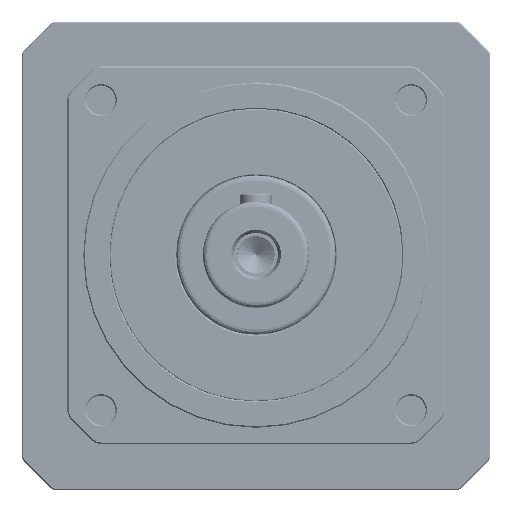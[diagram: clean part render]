
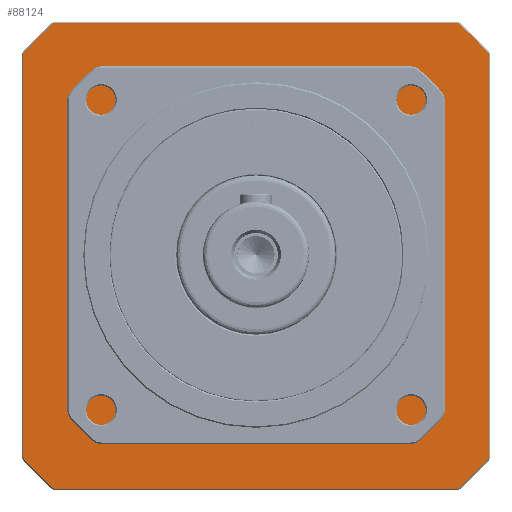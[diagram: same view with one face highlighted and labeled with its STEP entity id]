
A CAD part, top view. The second image highlights one B-rep face of the part: STEP entity #88124.
In plain terms, the highlighted planar face has unit normal (0, 0, 1) as drawn and (0, 0, -1) by its records, which use the part's own axes.
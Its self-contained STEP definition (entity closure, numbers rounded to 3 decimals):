
#786 = VERTEX_POINT ( 'NONE', #103845 ) ;
#2954 = ORIENTED_EDGE ( 'NONE', *, *, #110893, .T. ) ;
#3197 = DIRECTION ( 'NONE',  ( 0., 0., 1. ) ) ;
#3811 = EDGE_CURVE ( 'NONE', #97513, #93216, #55928, .T. ) ;
#4879 = CARTESIAN_POINT ( 'NONE',  ( 0., -57.5, 0. ) ) ;
#6208 = FACE_OUTER_BOUND ( 'NONE', #29484, .T. ) ;
#8763 = CARTESIAN_POINT ( 'NONE',  ( 30.311, -57.5, 0. ) ) ;
#10284 = VECTOR ( 'NONE', #104699, 1000. ) ;
#10350 = VERTEX_POINT ( 'NONE', #99037 ) ;
#11563 = LINE ( 'NONE', #51468, #34195 ) ;
#11644 = VERTEX_POINT ( 'NONE', #81815 ) ;
#12252 = DIRECTION ( 'NONE',  ( 1., 0., 0. ) ) ;
#13202 = EDGE_CURVE ( 'NONE', #29967, #97513, #29375, .T. ) ;
#13450 = VECTOR ( 'NONE', #106782, 1000. ) ;
#13932 = ORIENTED_EDGE ( 'NONE', *, *, #69969, .T. ) ;
#15100 = EDGE_LOOP ( 'NONE', ( #19698, #93793, #43599, #26487, #58254, #43535, #91336, #2954 ) ) ;
#15912 = VERTEX_POINT ( 'NONE', #45054 ) ;
#16662 = CARTESIAN_POINT ( 'NONE',  ( 0., 0., 0. ) ) ;
#17107 = VERTEX_POINT ( 'NONE', #17220 ) ;
#17131 = CARTESIAN_POINT ( 'NONE',  ( 0., 0., 0. ) ) ;
#17208 = CARTESIAN_POINT ( 'NONE',  ( -87.5, 76.156, 0. ) ) ;
#17220 = CARTESIAN_POINT ( 'NONE',  ( 30.311, 57.5, 0. ) ) ;
#18403 = CARTESIAN_POINT ( 'NONE',  ( 57.5, 30.311, 0. ) ) ;
#18451 = DIRECTION ( 'NONE',  ( 1., 0., 0. ) ) ;
#18771 = VERTEX_POINT ( 'NONE', #25591 ) ;
#19698 = ORIENTED_EDGE ( 'NONE', *, *, #24607, .T. ) ;
#20542 = EDGE_CURVE ( 'NONE', #786, #55223, #62836, .T. ) ;
#21179 = EDGE_CURVE ( 'NONE', #84067, #15912, #96342, .T. ) ;
#21790 = AXIS2_PLACEMENT_3D ( 'NONE', #75553, #84045, #32865 ) ;
#24342 = PLANE ( 'NONE',  #21790 ) ;
#24358 = LINE ( 'NONE', #71965, #44403 ) ;
#24607 = EDGE_CURVE ( 'NONE', #18771, #29967, #83765, .T. ) ;
#24754 = EDGE_CURVE ( 'NONE', #11644, #84067, #35636, .T. ) ;
#25220 = DIRECTION ( 'NONE',  ( 1., 0., 0. ) ) ;
#25591 = CARTESIAN_POINT ( 'NONE',  ( -57.5, -30.311, 0. ) ) ;
#25697 = DIRECTION ( 'NONE',  ( 1., 0., 0. ) ) ;
#26239 = EDGE_CURVE ( 'NONE', #10350, #786, #98687, .T. ) ;
#26487 = ORIENTED_EDGE ( 'NONE', *, *, #38986, .T. ) ;
#26994 = VERTEX_POINT ( 'NONE', #58595 ) ;
#28041 = AXIS2_PLACEMENT_3D ( 'NONE', #16662, #76411, #25220 ) ;
#28719 = CARTESIAN_POINT ( 'NONE',  ( 76.156, -87.5, 0. ) ) ;
#29375 = LINE ( 'NONE', #4879, #92187 ) ;
#29484 = EDGE_LOOP ( 'NONE', ( #35692, #49575, #13932, #29852, #103207, #107870, #34774, #104491 ) ) ;
#29852 = ORIENTED_EDGE ( 'NONE', *, *, #94979, .T. ) ;
#29967 = VERTEX_POINT ( 'NONE', #97735 ) ;
#30325 = VECTOR ( 'NONE', #12252, 1000. ) ;
#31088 = CARTESIAN_POINT ( 'NONE',  ( 0., 0., 0. ) ) ;
#32429 = DIRECTION ( 'NONE',  ( 0., -1., 0. ) ) ;
#32865 = DIRECTION ( 'NONE',  ( -1., 0., 0. ) ) ;
#33866 = AXIS2_PLACEMENT_3D ( 'NONE', #87293, #92856, #92991 ) ;
#34151 = AXIS2_PLACEMENT_3D ( 'NONE', #36121, #95996, #44752 ) ;
#34195 = VECTOR ( 'NONE', #77280, 1000. ) ;
#34774 = ORIENTED_EDGE ( 'NONE', *, *, #76300, .T. ) ;
#35636 = CIRCLE ( 'NONE', #91915, 116. ) ;
#35692 = ORIENTED_EDGE ( 'NONE', *, *, #21179, .T. ) ;
#36121 = CARTESIAN_POINT ( 'NONE',  ( 0., 0., 0. ) ) ;
#38618 = VERTEX_POINT ( 'NONE', #18403 ) ;
#38986 = EDGE_CURVE ( 'NONE', #93216, #38618, #11563, .T. ) ;
#39450 = VERTEX_POINT ( 'NONE', #60655 ) ;
#39548 = CARTESIAN_POINT ( 'NONE',  ( 0., 0., 0. ) ) ;
#39724 = DIRECTION ( 'NONE',  ( 1., 0., 0. ) ) ;
#40370 = CARTESIAN_POINT ( 'NONE',  ( 0., 0., 0. ) ) ;
#43535 = ORIENTED_EDGE ( 'NONE', *, *, #108079, .T. ) ;
#43599 = ORIENTED_EDGE ( 'NONE', *, *, #3811, .T. ) ;
#44291 = CARTESIAN_POINT ( 'NONE',  ( 87.5, 76.156, 0. ) ) ;
#44403 = VECTOR ( 'NONE', #63242, 1000. ) ;
#44752 = DIRECTION ( 'NONE',  ( 1., 0., 0. ) ) ;
#45054 = CARTESIAN_POINT ( 'NONE',  ( -76.156, -87.5, 0. ) ) ;
#46195 = EDGE_CURVE ( 'NONE', #38618, #17107, #65609, .T. ) ;
#47307 = CARTESIAN_POINT ( 'NONE',  ( -87.5, -76.156, 0. ) ) ;
#48100 = DIRECTION ( 'NONE',  ( -1., 0., 0. ) ) ;
#48919 = DIRECTION ( 'NONE',  ( -1., 0., 0. ) ) ;
#49575 = ORIENTED_EDGE ( 'NONE', *, *, #91979, .T. ) ;
#50423 = EDGE_CURVE ( 'NONE', #39450, #26994, #53120, .T. ) ;
#51468 = CARTESIAN_POINT ( 'NONE',  ( 57.5, 0., 0. ) ) ;
#51805 = AXIS2_PLACEMENT_3D ( 'NONE', #39548, #99490, #48100 ) ;
#53120 = CIRCLE ( 'NONE', #63067, 65. ) ;
#54360 = CARTESIAN_POINT ( 'NONE',  ( 0., 0., 0. ) ) ;
#55223 = VERTEX_POINT ( 'NONE', #44291 ) ;
#55352 = LINE ( 'NONE', #71345, #98277 ) ;
#55928 = CIRCLE ( 'NONE', #33866, 65. ) ;
#58254 = ORIENTED_EDGE ( 'NONE', *, *, #46195, .T. ) ;
#58595 = CARTESIAN_POINT ( 'NONE',  ( -57.5, 30.311, 0. ) ) ;
#60655 = CARTESIAN_POINT ( 'NONE',  ( -30.311, 57.5, 0. ) ) ;
#62836 = CIRCLE ( 'NONE', #28041, 116. ) ;
#62887 = DIRECTION ( 'NONE',  ( -1., 0., 0. ) ) ;
#63067 = AXIS2_PLACEMENT_3D ( 'NONE', #54360, #3197, #62887 ) ;
#63242 = DIRECTION ( 'NONE',  ( 0., -1., 0. ) ) ;
#63428 = CARTESIAN_POINT ( 'NONE',  ( 0., -87.5, 0. ) ) ;
#64295 = VECTOR ( 'NONE', #32429, 1000. ) ;
#65609 = CIRCLE ( 'NONE', #105344, 65. ) ;
#67463 = CIRCLE ( 'NONE', #34151, 116. ) ;
#69969 = EDGE_CURVE ( 'NONE', #101582, #81684, #78512, .T. ) ;
#71345 = CARTESIAN_POINT ( 'NONE',  ( 0., 57.5, 0. ) ) ;
#71782 = FACE_BOUND ( 'NONE', #15100, .T. ) ;
#71965 = CARTESIAN_POINT ( 'NONE',  ( 87.5, 0., 0. ) ) ;
#75553 = CARTESIAN_POINT ( 'NONE',  ( 87.5, -87.5, 0. ) ) ;
#76300 = EDGE_CURVE ( 'NONE', #55223, #11644, #24358, .T. ) ;
#76411 = DIRECTION ( 'NONE',  ( 0., 0., -1. ) ) ;
#76877 = DIRECTION ( 'NONE',  ( 0., 0., -1. ) ) ;
#77180 = CIRCLE ( 'NONE', #88826, 116. ) ;
#77280 = DIRECTION ( 'NONE',  ( 0., 1., 0. ) ) ;
#78512 = LINE ( 'NONE', #95923, #10284 ) ;
#79919 = DIRECTION ( 'NONE',  ( -1., 0., 0. ) ) ;
#80221 = CARTESIAN_POINT ( 'NONE',  ( 0., 87.5, 0. ) ) ;
#81684 = VERTEX_POINT ( 'NONE', #17208 ) ;
#81815 = CARTESIAN_POINT ( 'NONE',  ( 87.5, -76.156, 0. ) ) ;
#83636 = CARTESIAN_POINT ( 'NONE',  ( -57.5, 0., 0. ) ) ;
#83765 = CIRCLE ( 'NONE', #51805, 65. ) ;
#84045 = DIRECTION ( 'NONE',  ( 0., 0., -1. ) ) ;
#84067 = VERTEX_POINT ( 'NONE', #28719 ) ;
#84300 = CARTESIAN_POINT ( 'NONE',  ( 57.5, -30.311, 0. ) ) ;
#84342 = LINE ( 'NONE', #83636, #64295 ) ;
#87293 = CARTESIAN_POINT ( 'NONE',  ( 0., 0., 0. ) ) ;
#88124 = ADVANCED_FACE ( 'NONE', ( #71782, #6208 ), #24342, .T. ) ;
#88826 = AXIS2_PLACEMENT_3D ( 'NONE', #31088, #90875, #39724 ) ;
#90875 = DIRECTION ( 'NONE',  ( 0., 0., -1. ) ) ;
#91336 = ORIENTED_EDGE ( 'NONE', *, *, #50423, .T. ) ;
#91915 = AXIS2_PLACEMENT_3D ( 'NONE', #17131, #76877, #25697 ) ;
#91979 = EDGE_CURVE ( 'NONE', #15912, #101582, #67463, .T. ) ;
#92187 = VECTOR ( 'NONE', #18451, 1000. ) ;
#92856 = DIRECTION ( 'NONE',  ( 0., 0., 1. ) ) ;
#92991 = DIRECTION ( 'NONE',  ( -1., 0., 0. ) ) ;
#93216 = VERTEX_POINT ( 'NONE', #84300 ) ;
#93793 = ORIENTED_EDGE ( 'NONE', *, *, #13202, .T. ) ;
#94979 = EDGE_CURVE ( 'NONE', #81684, #10350, #77180, .T. ) ;
#95923 = CARTESIAN_POINT ( 'NONE',  ( -87.5, 0., 0. ) ) ;
#95996 = DIRECTION ( 'NONE',  ( 0., 0., -1. ) ) ;
#96342 = LINE ( 'NONE', #63428, #13450 ) ;
#97513 = VERTEX_POINT ( 'NONE', #8763 ) ;
#97735 = CARTESIAN_POINT ( 'NONE',  ( -30.311, -57.5, 0. ) ) ;
#98277 = VECTOR ( 'NONE', #79919, 1000. ) ;
#98687 = LINE ( 'NONE', #80221, #30325 ) ;
#99037 = CARTESIAN_POINT ( 'NONE',  ( -76.156, 87.5, 0. ) ) ;
#99490 = DIRECTION ( 'NONE',  ( 0., 0., 1. ) ) ;
#100320 = DIRECTION ( 'NONE',  ( 0., 0., 1. ) ) ;
#101582 = VERTEX_POINT ( 'NONE', #47307 ) ;
#103207 = ORIENTED_EDGE ( 'NONE', *, *, #26239, .T. ) ;
#103845 = CARTESIAN_POINT ( 'NONE',  ( 76.156, 87.5, 0. ) ) ;
#104491 = ORIENTED_EDGE ( 'NONE', *, *, #24754, .T. ) ;
#104699 = DIRECTION ( 'NONE',  ( 0., 1., 0. ) ) ;
#105344 = AXIS2_PLACEMENT_3D ( 'NONE', #40370, #100320, #48919 ) ;
#106782 = DIRECTION ( 'NONE',  ( -1., 0., 0. ) ) ;
#107870 = ORIENTED_EDGE ( 'NONE', *, *, #20542, .T. ) ;
#108079 = EDGE_CURVE ( 'NONE', #17107, #39450, #55352, .T. ) ;
#110893 = EDGE_CURVE ( 'NONE', #26994, #18771, #84342, .T. ) ;
